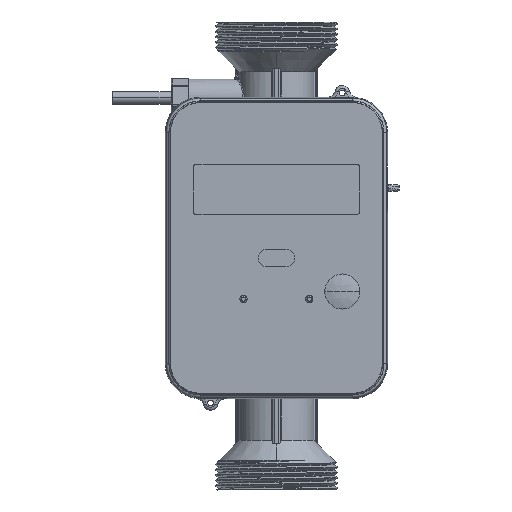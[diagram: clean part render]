
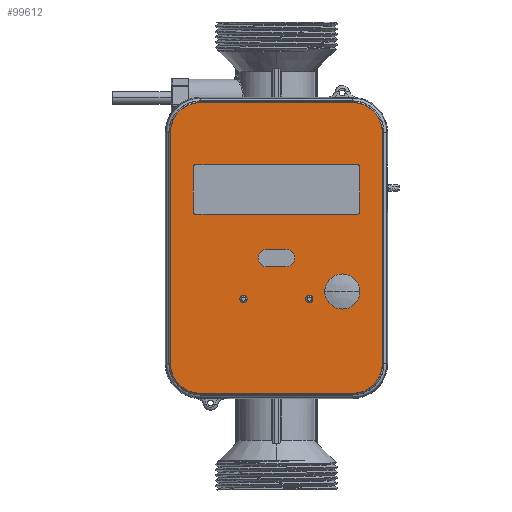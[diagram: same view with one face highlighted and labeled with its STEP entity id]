
A CAD part, front view. The second image highlights one B-rep face of the part: STEP entity #99612.
In plain terms, the highlighted planar face has unit normal (0, -1, 0) as drawn and (0, 1, 0) by its records, which use the part's own axes.
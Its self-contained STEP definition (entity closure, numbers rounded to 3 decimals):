
#94988=CARTESIAN_POINT('',(-26.,7.,-39.5));
#94989=DIRECTION('',(0.,-1.,0.));
#94990=DIRECTION('',(-1.,0.,0.));
#94991=AXIS2_PLACEMENT_3D('',#94988,#94989,#94990);
#94993=CARTESIAN_POINT('',(26.,7.,-39.5));
#94994=DIRECTION('',(0.,-1.,0.));
#94995=DIRECTION('',(0.,0.,-1.));
#94996=AXIS2_PLACEMENT_3D('',#94993,#94994,#94995);
#94998=CARTESIAN_POINT('',(26.,7.,39.5));
#94999=DIRECTION('',(0.,-1.,0.));
#95000=DIRECTION('',(1.,0.,0.));
#95001=AXIS2_PLACEMENT_3D('',#94998,#94999,#95000);
#95003=CARTESIAN_POINT('',(-26.,7.,39.5));
#95004=DIRECTION('',(0.,-1.,0.));
#95005=DIRECTION('',(0.,0.,1.));
#95006=AXIS2_PLACEMENT_3D('',#95003,#95004,#95005);
#95008=CARTESIAN_POINT('',(-3.25,7.,3.5));
#95009=DIRECTION('',(0.,1.,0.));
#95010=DIRECTION('',(0.,0.,-1.));
#95011=AXIS2_PLACEMENT_3D('',#95008,#95009,#95010);
#95013=CARTESIAN_POINT('',(3.25,7.,3.5));
#95014=DIRECTION('',(0.,1.,0.));
#95015=DIRECTION('',(0.,0.,1.));
#95016=AXIS2_PLACEMENT_3D('',#95013,#95014,#95015);
#95018=CARTESIAN_POINT('',(22.55,7.,14.9));
#95019=DIRECTION('',(0.,1.,0.));
#95020=DIRECTION('',(-1.,0.,0.));
#95021=AXIS2_PLACEMENT_3D('',#95018,#95019,#95020);
#95023=CARTESIAN_POINT('',(22.55,7.,14.9));
#95024=DIRECTION('',(0.,1.,0.));
#95025=DIRECTION('',(1.,0.,0.));
#95026=AXIS2_PLACEMENT_3D('',#95023,#95024,#95025);
#95028=CARTESIAN_POINT('',(-11.25,7.,17.5));
#95029=DIRECTION('',(0.,1.,0.));
#95030=DIRECTION('',(1.,0.,0.));
#95031=AXIS2_PLACEMENT_3D('',#95028,#95029,#95030);
#95033=CARTESIAN_POINT('',(-11.25,7.,17.5));
#95034=DIRECTION('',(0.,1.,0.));
#95035=DIRECTION('',(-1.,0.,0.));
#95036=AXIS2_PLACEMENT_3D('',#95033,#95034,#95035);
#95038=CARTESIAN_POINT('',(11.25,7.,17.5));
#95039=DIRECTION('',(0.,1.,0.));
#95040=DIRECTION('',(1.,0.,0.));
#95041=AXIS2_PLACEMENT_3D('',#95038,#95039,#95040);
#95043=CARTESIAN_POINT('',(11.25,7.,17.5));
#95044=DIRECTION('',(0.,1.,0.));
#95045=DIRECTION('',(-1.,0.,0.));
#95046=AXIS2_PLACEMENT_3D('',#95043,#95044,#95045);
#95048=CARTESIAN_POINT('',(27.5,7.,-27.5));
#95049=DIRECTION('',(0.,1.,0.));
#95050=DIRECTION('',(1.,0.,0.));
#95051=AXIS2_PLACEMENT_3D('',#95048,#95049,#95050);
#95053=CARTESIAN_POINT('',(-27.5,7.,-27.5));
#95054=DIRECTION('',(0.,1.,0.));
#95055=DIRECTION('',(0.,0.,-1.));
#95056=AXIS2_PLACEMENT_3D('',#95053,#95054,#95055);
#95058=CARTESIAN_POINT('',(-27.5,7.,-12.5));
#95059=DIRECTION('',(0.,1.,0.));
#95060=DIRECTION('',(-1.,0.,0.));
#95061=AXIS2_PLACEMENT_3D('',#95058,#95059,#95060);
#95063=CARTESIAN_POINT('',(27.5,7.,-12.5));
#95064=DIRECTION('',(0.,1.,0.));
#95065=DIRECTION('',(0.,0.,1.));
#95066=AXIS2_PLACEMENT_3D('',#95063,#95064,#95065);
#95068=DIRECTION('',(0.,0.,1.));
#95069=VECTOR('',#95068,79.);
#95070=CARTESIAN_POINT('',(-36.209,7.,-39.5));
#95071=LINE('',#95070,#95069);
#95091=DIRECTION('',(1.,0.,0.));
#95092=VECTOR('',#95091,52.);
#95093=CARTESIAN_POINT('',(-26.,7.,49.709));
#95094=LINE('',#95093,#95092);
#95114=DIRECTION('',(0.,0.,-1.));
#95115=VECTOR('',#95114,79.);
#95116=CARTESIAN_POINT('',(36.209,7.,39.5));
#95117=LINE('',#95116,#95115);
#95137=DIRECTION('',(-1.,0.,0.));
#95138=VECTOR('',#95137,52.);
#95139=CARTESIAN_POINT('',(26.,7.,-49.709));
#95140=LINE('',#95139,#95138);
#98154=DIRECTION('',(-1.,0.,0.));
#98155=VECTOR('',#98154,55.);
#98156=CARTESIAN_POINT('',(27.5,7.,-11.5));
#98157=LINE('',#98156,#98155);
#98166=DIRECTION('',(0.,0.,1.));
#98167=VECTOR('',#98166,15.);
#98168=CARTESIAN_POINT('',(28.5,7.,-27.5));
#98169=LINE('',#98168,#98167);
#98178=DIRECTION('',(1.,0.,0.));
#98179=VECTOR('',#98178,55.);
#98180=CARTESIAN_POINT('',(-27.5,7.,-28.5));
#98181=LINE('',#98180,#98179);
#98190=DIRECTION('',(0.,0.,-1.));
#98191=VECTOR('',#98190,15.);
#98192=CARTESIAN_POINT('',(-28.5,7.,-12.5));
#98193=LINE('',#98192,#98191);
#98210=DIRECTION('',(-1.,0.,0.));
#98211=VECTOR('',#98210,6.5);
#98212=CARTESIAN_POINT('',(3.25,7.,6.5));
#98213=LINE('',#98212,#98211);
#98222=DIRECTION('',(1.,0.,0.));
#98223=VECTOR('',#98222,6.5);
#98224=CARTESIAN_POINT('',(-3.25,7.,0.5));
#98225=LINE('',#98224,#98223);
#98530=CARTESIAN_POINT('',(-36.209,7.,-39.5));
#98531=CARTESIAN_POINT('',(-36.209,7.,39.5));
#98532=VERTEX_POINT('',#98530);
#98533=VERTEX_POINT('',#98531);
#98534=CARTESIAN_POINT('',(-26.,7.,-49.709));
#98535=VERTEX_POINT('',#98534);
#98536=CARTESIAN_POINT('',(26.,7.,-49.709));
#98537=VERTEX_POINT('',#98536);
#98538=CARTESIAN_POINT('',(36.209,7.,-39.5));
#98539=VERTEX_POINT('',#98538);
#98540=CARTESIAN_POINT('',(36.209,7.,39.5));
#98541=VERTEX_POINT('',#98540);
#98542=CARTESIAN_POINT('',(26.,7.,49.709));
#98543=VERTEX_POINT('',#98542);
#98544=CARTESIAN_POINT('',(-26.,7.,49.709));
#98545=VERTEX_POINT('',#98544);
#98546=CARTESIAN_POINT('',(3.25,7.,6.5));
#98547=CARTESIAN_POINT('',(-3.25,7.,6.5));
#98548=VERTEX_POINT('',#98546);
#98549=VERTEX_POINT('',#98547);
#98550=CARTESIAN_POINT('',(-3.25,7.,0.5));
#98551=CARTESIAN_POINT('',(3.25,7.,0.5));
#98552=VERTEX_POINT('',#98550);
#98553=VERTEX_POINT('',#98551);
#98554=CARTESIAN_POINT('',(16.55,7.,14.9));
#98555=CARTESIAN_POINT('',(28.55,7.,14.9));
#98556=VERTEX_POINT('',#98554);
#98557=VERTEX_POINT('',#98555);
#98558=CARTESIAN_POINT('',(-10.,7.,17.5));
#98559=CARTESIAN_POINT('',(-12.5,7.,17.5));
#98560=VERTEX_POINT('',#98558);
#98561=VERTEX_POINT('',#98559);
#98562=CARTESIAN_POINT('',(12.5,7.,17.5));
#98563=CARTESIAN_POINT('',(10.,7.,17.5));
#98564=VERTEX_POINT('',#98562);
#98565=VERTEX_POINT('',#98563);
#98566=CARTESIAN_POINT('',(28.5,7.,-27.5));
#98567=CARTESIAN_POINT('',(28.5,7.,-12.5));
#98568=VERTEX_POINT('',#98566);
#98569=VERTEX_POINT('',#98567);
#98570=CARTESIAN_POINT('',(27.5,7.,-28.5));
#98571=VERTEX_POINT('',#98570);
#98572=CARTESIAN_POINT('',(-27.5,7.,-28.5));
#98573=VERTEX_POINT('',#98572);
#98574=CARTESIAN_POINT('',(-28.5,7.,-27.5));
#98575=VERTEX_POINT('',#98574);
#98576=CARTESIAN_POINT('',(-28.5,7.,-12.5));
#98577=VERTEX_POINT('',#98576);
#98578=CARTESIAN_POINT('',(-27.5,7.,-11.5));
#98579=VERTEX_POINT('',#98578);
#98580=CARTESIAN_POINT('',(27.5,7.,-11.5));
#98581=VERTEX_POINT('',#98580);
#99543=CARTESIAN_POINT('',(0.,7.,0.));
#99544=DIRECTION('',(0.,1.,0.));
#99545=DIRECTION('',(1.,0.,0.));
#99546=AXIS2_PLACEMENT_3D('',#99543,#99544,#99545);
#99547=PLANE('',#99546);
#99549=ORIENTED_EDGE('',*,*,#99548,.F.);
#99551=ORIENTED_EDGE('',*,*,#99550,.T.);
#99553=ORIENTED_EDGE('',*,*,#99552,.F.);
#99555=ORIENTED_EDGE('',*,*,#99554,.T.);
#99557=ORIENTED_EDGE('',*,*,#99556,.F.);
#99559=ORIENTED_EDGE('',*,*,#99558,.T.);
#99561=ORIENTED_EDGE('',*,*,#99560,.F.);
#99563=ORIENTED_EDGE('',*,*,#99562,.T.);
#99564=EDGE_LOOP('',(#99549,#99551,#99553,#99555,#99557,#99559,#99561,#99563));
#99565=FACE_OUTER_BOUND('',#99564,.F.);
#99567=ORIENTED_EDGE('',*,*,#99566,.T.);
#99569=ORIENTED_EDGE('',*,*,#99568,.F.);
#99571=ORIENTED_EDGE('',*,*,#99570,.T.);
#99573=ORIENTED_EDGE('',*,*,#99572,.F.);
#99574=EDGE_LOOP('',(#99567,#99569,#99571,#99573));
#99575=FACE_BOUND('',#99574,.F.);
#99577=ORIENTED_EDGE('',*,*,#99576,.T.);
#99579=ORIENTED_EDGE('',*,*,#99578,.T.);
#99580=EDGE_LOOP('',(#99577,#99579));
#99581=FACE_BOUND('',#99580,.F.);
#99583=ORIENTED_EDGE('',*,*,#99582,.T.);
#99585=ORIENTED_EDGE('',*,*,#99584,.T.);
#99586=EDGE_LOOP('',(#99583,#99585));
#99587=FACE_BOUND('',#99586,.F.);
#99589=ORIENTED_EDGE('',*,*,#99588,.T.);
#99591=ORIENTED_EDGE('',*,*,#99590,.T.);
#99592=EDGE_LOOP('',(#99589,#99591));
#99593=FACE_BOUND('',#99592,.F.);
#99595=ORIENTED_EDGE('',*,*,#99594,.F.);
#99597=ORIENTED_EDGE('',*,*,#99596,.T.);
#99599=ORIENTED_EDGE('',*,*,#99598,.F.);
#99601=ORIENTED_EDGE('',*,*,#99600,.T.);
#99603=ORIENTED_EDGE('',*,*,#99602,.F.);
#99605=ORIENTED_EDGE('',*,*,#99604,.T.);
#99607=ORIENTED_EDGE('',*,*,#99606,.F.);
#99609=ORIENTED_EDGE('',*,*,#99608,.T.);
#99610=EDGE_LOOP('',(#99595,#99597,#99599,#99601,#99603,#99605,#99607,#99609));
#99611=FACE_BOUND('',#99610,.F.);
#99612=ADVANCED_FACE('',(#99565,#99575,#99581,#99587,#99593,#99611),#99547,.T.);
#94992=CIRCLE('',#94991,10.209);
#94997=CIRCLE('',#94996,10.209);
#95002=CIRCLE('',#95001,10.209);
#95007=CIRCLE('',#95006,10.209);
#95012=CIRCLE('',#95011,3.);
#95017=CIRCLE('',#95016,3.);
#95022=CIRCLE('',#95021,6.);
#95027=CIRCLE('',#95026,6.);
#95032=CIRCLE('',#95031,1.25);
#95037=CIRCLE('',#95036,1.25);
#95042=CIRCLE('',#95041,1.25);
#95047=CIRCLE('',#95046,1.25);
#95052=CIRCLE('',#95051,1.);
#95057=CIRCLE('',#95056,1.);
#95062=CIRCLE('',#95061,1.);
#95067=CIRCLE('',#95066,1.);
#99548=EDGE_CURVE('',#98532,#98533,#95071,.T.);
#99550=EDGE_CURVE('',#98532,#98535,#94992,.T.);
#99552=EDGE_CURVE('',#98537,#98535,#95140,.T.);
#99554=EDGE_CURVE('',#98537,#98539,#94997,.T.);
#99556=EDGE_CURVE('',#98541,#98539,#95117,.T.);
#99558=EDGE_CURVE('',#98541,#98543,#95002,.T.);
#99560=EDGE_CURVE('',#98545,#98543,#95094,.T.);
#99562=EDGE_CURVE('',#98545,#98533,#95007,.T.);
#99566=EDGE_CURVE('',#98552,#98549,#95012,.T.);
#99568=EDGE_CURVE('',#98548,#98549,#98213,.T.);
#99570=EDGE_CURVE('',#98548,#98553,#95017,.T.);
#99572=EDGE_CURVE('',#98552,#98553,#98225,.T.);
#99576=EDGE_CURVE('',#98556,#98557,#95022,.T.);
#99578=EDGE_CURVE('',#98557,#98556,#95027,.T.);
#99582=EDGE_CURVE('',#98560,#98561,#95032,.T.);
#99584=EDGE_CURVE('',#98561,#98560,#95037,.T.);
#99588=EDGE_CURVE('',#98564,#98565,#95042,.T.);
#99590=EDGE_CURVE('',#98565,#98564,#95047,.T.);
#99594=EDGE_CURVE('',#98568,#98569,#98169,.T.);
#99596=EDGE_CURVE('',#98568,#98571,#95052,.T.);
#99598=EDGE_CURVE('',#98573,#98571,#98181,.T.);
#99600=EDGE_CURVE('',#98573,#98575,#95057,.T.);
#99602=EDGE_CURVE('',#98577,#98575,#98193,.T.);
#99604=EDGE_CURVE('',#98577,#98579,#95062,.T.);
#99606=EDGE_CURVE('',#98581,#98579,#98157,.T.);
#99608=EDGE_CURVE('',#98581,#98569,#95067,.T.);
